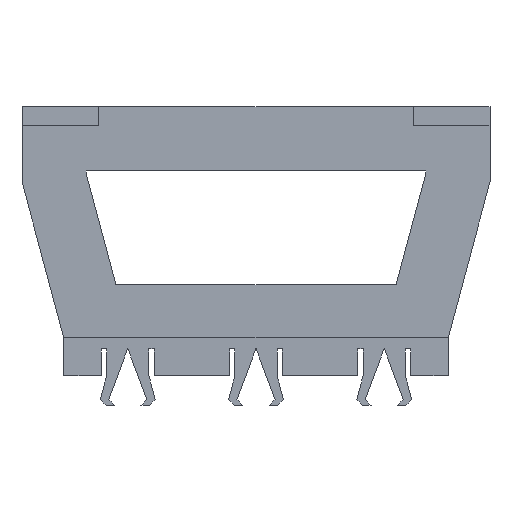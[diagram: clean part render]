
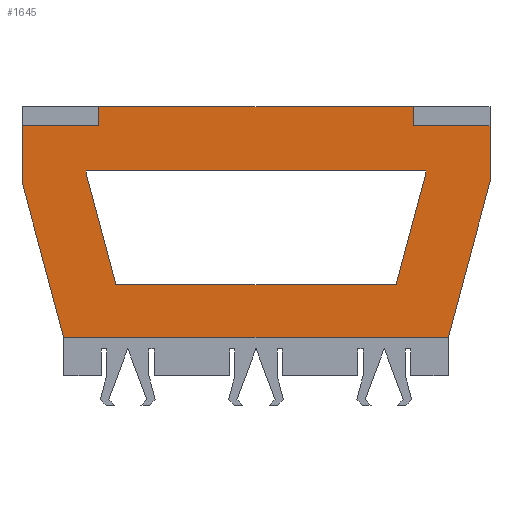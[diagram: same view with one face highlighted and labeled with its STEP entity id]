
A CAD part, front view. The second image highlights one B-rep face of the part: STEP entity #1645.
In plain terms, the highlighted planar face has unit normal (0, -1, 0).
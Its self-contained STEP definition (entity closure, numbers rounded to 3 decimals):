
#18=FACE_BOUND('',#177,.T.);
#95=FACE_OUTER_BOUND('',#176,.T.);
#176=EDGE_LOOP('',(#1364,#1365,#1366,#1367,#1368,#1369,#1370,#1371,#1372,
#1373));
#177=EDGE_LOOP('',(#1374,#1375,#1376,#1377,#1378,#1379));
#195=LINE('',#2149,#423);
#199=LINE('',#2156,#427);
#202=LINE('',#2162,#430);
#205=LINE('',#2168,#433);
#208=LINE('',#2174,#436);
#210=LINE('',#2177,#438);
#324=LINE('',#2407,#552);
#387=LINE('',#2533,#615);
#392=LINE('',#2542,#620);
#393=LINE('',#2546,#621);
#397=LINE('',#2556,#625);
#398=LINE('',#2558,#626);
#399=LINE('',#2560,#627);
#400=LINE('',#2562,#628);
#401=LINE('',#2563,#629);
#402=LINE('',#2564,#630);
#423=VECTOR('',#1749,10.);
#427=VECTOR('',#1755,10.);
#430=VECTOR('',#1760,10.);
#433=VECTOR('',#1765,10.);
#436=VECTOR('',#1770,10.);
#438=VECTOR('',#1774,10.);
#552=VECTOR('',#1964,10.);
#615=VECTOR('',#2071,10.);
#620=VECTOR('',#2078,10.);
#621=VECTOR('',#2081,10.);
#625=VECTOR('',#2089,10.);
#626=VECTOR('',#2090,10.);
#627=VECTOR('',#2091,10.);
#628=VECTOR('',#2092,10.);
#629=VECTOR('',#2093,10.);
#630=VECTOR('',#2094,10.);
#651=VERTEX_POINT('',#2146);
#652=VERTEX_POINT('',#2148);
#654=VERTEX_POINT('',#2154);
#656=VERTEX_POINT('',#2160);
#658=VERTEX_POINT('',#2166);
#660=VERTEX_POINT('',#2172);
#665=VERTEX_POINT('',#2186);
#738=VERTEX_POINT('',#2406);
#779=VERTEX_POINT('',#2532);
#782=VERTEX_POINT('',#2540);
#783=VERTEX_POINT('',#2544);
#784=VERTEX_POINT('',#2545);
#788=VERTEX_POINT('',#2555);
#789=VERTEX_POINT('',#2557);
#790=VERTEX_POINT('',#2559);
#791=VERTEX_POINT('',#2561);
#805=EDGE_CURVE('',#652,#651,#195,.T.);
#809=EDGE_CURVE('',#651,#654,#199,.T.);
#812=EDGE_CURVE('',#654,#656,#202,.T.);
#815=EDGE_CURVE('',#656,#658,#205,.T.);
#818=EDGE_CURVE('',#658,#660,#208,.T.);
#820=EDGE_CURVE('',#660,#652,#210,.T.);
#934=EDGE_CURVE('',#665,#738,#324,.T.);
#997=EDGE_CURVE('',#738,#779,#387,.F.);
#1002=EDGE_CURVE('',#782,#665,#392,.F.);
#1003=EDGE_CURVE('',#783,#784,#393,.T.);
#1008=EDGE_CURVE('',#788,#783,#397,.T.);
#1009=EDGE_CURVE('',#789,#788,#398,.T.);
#1010=EDGE_CURVE('',#790,#789,#399,.T.);
#1011=EDGE_CURVE('',#791,#790,#400,.T.);
#1012=EDGE_CURVE('',#779,#791,#401,.T.);
#1013=EDGE_CURVE('',#782,#784,#402,.T.);
#1364=ORIENTED_EDGE('',*,*,#1008,.F.);
#1365=ORIENTED_EDGE('',*,*,#1009,.F.);
#1366=ORIENTED_EDGE('',*,*,#1010,.F.);
#1367=ORIENTED_EDGE('',*,*,#1011,.F.);
#1368=ORIENTED_EDGE('',*,*,#1012,.F.);
#1369=ORIENTED_EDGE('',*,*,#997,.F.);
#1370=ORIENTED_EDGE('',*,*,#934,.F.);
#1371=ORIENTED_EDGE('',*,*,#1002,.F.);
#1372=ORIENTED_EDGE('',*,*,#1013,.T.);
#1373=ORIENTED_EDGE('',*,*,#1003,.F.);
#1374=ORIENTED_EDGE('',*,*,#805,.T.);
#1375=ORIENTED_EDGE('',*,*,#809,.T.);
#1376=ORIENTED_EDGE('',*,*,#812,.T.);
#1377=ORIENTED_EDGE('',*,*,#815,.T.);
#1378=ORIENTED_EDGE('',*,*,#818,.T.);
#1379=ORIENTED_EDGE('',*,*,#820,.T.);
#1567=PLANE('',#1728);
#1645=ADVANCED_FACE('',(#95,#18),#1567,.F.);
#1728=AXIS2_PLACEMENT_3D('',#2554,#2087,#2088);
#1749=DIRECTION('',(0.,0.,-1.));
#1755=DIRECTION('',(-0.259,0.,-0.966));
#1760=DIRECTION('',(-1.,0.,0.));
#1765=DIRECTION('',(-0.259,0.,0.966));
#1770=DIRECTION('',(0.,0.,1.));
#1774=DIRECTION('',(1.,0.,0.));
#1964=DIRECTION('',(-1.,0.,0.));
#2071=DIRECTION('',(0.259,0.,-0.966));
#2078=DIRECTION('',(0.259,0.,0.966));
#2081=DIRECTION('',(1.,0.,0.));
#2087=DIRECTION('center_axis',(0.,1.,0.));
#2088=DIRECTION('ref_axis',(1.,0.,0.));
#2089=DIRECTION('',(0.,0.,-1.));
#2090=DIRECTION('',(1.,0.,0.));
#2091=DIRECTION('',(0.,0.,1.));
#2092=DIRECTION('',(1.,0.,0.));
#2093=DIRECTION('',(0.,0.,1.));
#2094=DIRECTION('',(0.,0.,1.));
#2146=CARTESIAN_POINT('',(13.25,0.181,-0.392));
#2148=CARTESIAN_POINT('',(13.25,0.181,-0.18));
#2149=CARTESIAN_POINT('',(13.25,0.181,1.839));
#2154=CARTESIAN_POINT('',(10.922,0.181,-9.08));
#2156=CARTESIAN_POINT('',(12.2,0.181,-4.31));
#2160=CARTESIAN_POINT('',(-10.922,0.181,-9.08));
#2162=CARTESIAN_POINT('',(-5.461,0.181,-9.08));
#2166=CARTESIAN_POINT('',(-13.25,0.181,-0.392));
#2168=CARTESIAN_POINT('',(-13.364,0.181,0.033));
#2172=CARTESIAN_POINT('',(-13.25,0.181,-0.18));
#2174=CARTESIAN_POINT('',(-13.25,0.181,1.945));
#2177=CARTESIAN_POINT('',(6.625,0.181,-0.18));
#2186=CARTESIAN_POINT('',(15.,0.181,-13.18));
#2406=CARTESIAN_POINT('',(-15.,0.181,-13.18));
#2407=CARTESIAN_POINT('',(0.,0.181,-13.18));
#2532=CARTESIAN_POINT('',(-18.25,0.181,-1.051));
#2533=CARTESIAN_POINT('',(-14.713,0.181,-14.252));
#2540=CARTESIAN_POINT('',(18.25,0.181,-1.051));
#2542=CARTESIAN_POINT('',(14.713,0.181,-14.252));
#2544=CARTESIAN_POINT('',(12.25,0.181,3.32));
#2545=CARTESIAN_POINT('',(18.25,0.181,3.32));
#2546=CARTESIAN_POINT('',(-7.125,0.181,3.32));
#2554=CARTESIAN_POINT('Origin',(0.,0.181,
4.07));
#2555=CARTESIAN_POINT('',(12.25,0.181,4.82));
#2556=CARTESIAN_POINT('',(12.25,0.181,4.445));
#2557=CARTESIAN_POINT('',(-12.25,0.181,4.82));
#2558=CARTESIAN_POINT('',(0.,0.181,4.82));
#2559=CARTESIAN_POINT('',(-12.25,0.181,3.32));
#2560=CARTESIAN_POINT('',(-12.25,0.181,4.445));
#2561=CARTESIAN_POINT('',(-18.25,0.181,3.32));
#2562=CARTESIAN_POINT('',(-7.125,0.181,3.32));
#2563=CARTESIAN_POINT('',(-18.25,0.181,-4.93));
#2564=CARTESIAN_POINT('',(18.25,0.181,-4.93));
